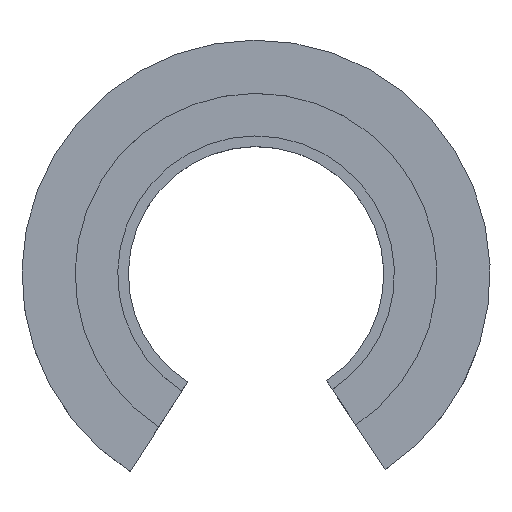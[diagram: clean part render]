
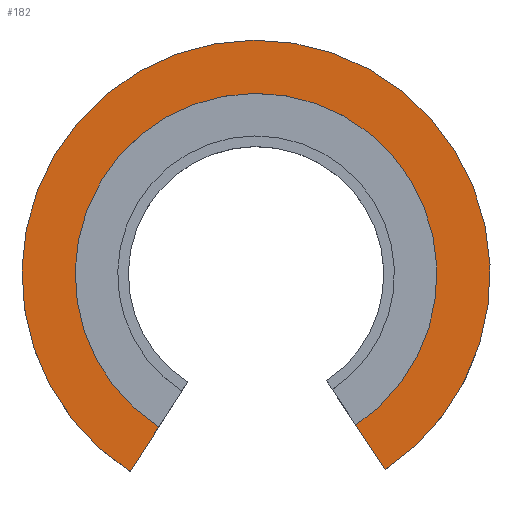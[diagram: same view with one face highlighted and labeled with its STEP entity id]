
A CAD part, top view. The second image highlights one B-rep face of the part: STEP entity #182.
In plain terms, the highlighted planar face has unit normal (0, 0, 1).
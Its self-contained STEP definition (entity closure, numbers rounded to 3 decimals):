
#22=CIRCLE('',#231,8.5);
#23=CIRCLE('',#233,11.);
#36=FACE_OUTER_BOUND('',#46,.T.);
#46=EDGE_LOOP('',(#151,#152,#153,#154));
#52=LINE('',#307,#68);
#66=LINE('',#335,#82);
#68=VECTOR('',#249,10.);
#82=VECTOR('',#265,10.);
#83=VERTEX_POINT('',#303);
#85=VERTEX_POINT('',#306);
#92=VERTEX_POINT('',#321);
#98=VERTEX_POINT('',#333);
#100=EDGE_CURVE('',#85,#83,#52,.T.);
#114=EDGE_CURVE('',#92,#98,#66,.T.);
#118=EDGE_CURVE('',#98,#85,#22,.T.);
#119=EDGE_CURVE('',#83,#92,#23,.T.);
#151=ORIENTED_EDGE('',*,*,#100,.T.);
#152=ORIENTED_EDGE('',*,*,#119,.T.);
#153=ORIENTED_EDGE('',*,*,#114,.T.);
#154=ORIENTED_EDGE('',*,*,#118,.T.);
#174=PLANE('',#232);
#182=ADVANCED_FACE('',(#36),#174,.T.);
#231=AXIS2_PLACEMENT_3D('',#342,#278,#279);
#232=AXIS2_PLACEMENT_3D('',#343,#280,#281);
#233=AXIS2_PLACEMENT_3D('',#344,#282,#283);
#249=DIRECTION('',(0.552,-0.834,0.));
#265=DIRECTION('',(0.537,0.843,0.));
#278=DIRECTION('center_axis',(0.,0.,-1.));
#279=DIRECTION('ref_axis',(-1.,0.,0.));
#280=DIRECTION('center_axis',(0.,0.,1.));
#281=DIRECTION('ref_axis',(1.,0.,0.));
#282=DIRECTION('center_axis',(0.,0.,1.));
#283=DIRECTION('ref_axis',(1.,0.,0.));
#303=CARTESIAN_POINT('',(6.072,-9.172,1.5));
#306=CARTESIAN_POINT('',(4.692,-7.088,1.5));
#307=CARTESIAN_POINT('',(0.,0.,1.5));
#321=CARTESIAN_POINT('',(-5.91,-9.278,1.5));
#333=CARTESIAN_POINT('',(-4.567,-7.169,1.5));
#335=CARTESIAN_POINT('',(-3.983,-6.253,1.5));
#342=CARTESIAN_POINT('Origin',(0.,0.,1.5));
#343=CARTESIAN_POINT('Origin',(0.,0.,1.5));
#344=CARTESIAN_POINT('Origin',(0.,0.,1.5));
